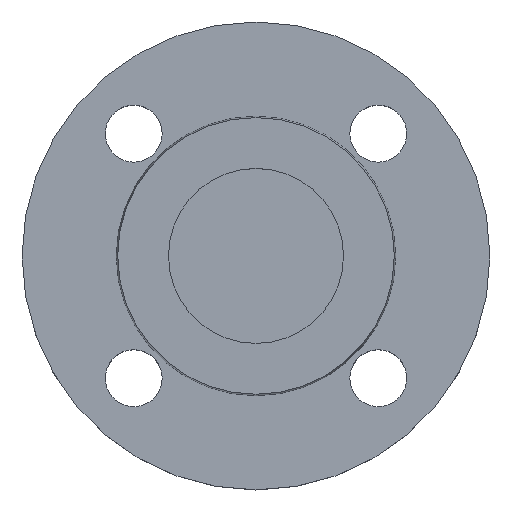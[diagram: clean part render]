
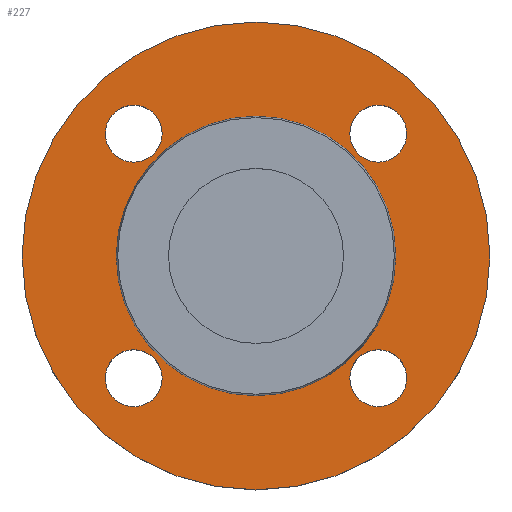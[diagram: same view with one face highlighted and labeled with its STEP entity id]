
A CAD part, top view. The second image highlights one B-rep face of the part: STEP entity #227.
In plain terms, the highlighted planar face has unit normal (0, 0, 1).
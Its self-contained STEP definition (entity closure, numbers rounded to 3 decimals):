
#5 = AXIS2_PLACEMENT_3D ( 'NONE', #592, #593, #594 ) ;
#8 = CIRCLE ( 'NONE', #111, 7. ) ;
#14 = CIRCLE ( 'NONE', #255, 7. ) ;
#16 = AXIS2_PLACEMENT_3D ( 'NONE', #435, #436, #437 ) ;
#21 = AXIS2_PLACEMENT_3D ( 'NONE', #371, #372, #373 ) ;
#23 = CIRCLE ( 'NONE', #253, 34.353 ) ;
#24 = EDGE_CURVE ( 'NONE', #236, #237, #251, .T. ) ;
#25 = CIRCLE ( 'NONE', #129, 7. ) ;
#32 = EDGE_CURVE ( 'NONE', #268, #130, #140, .T. ) ;
#35 = AXIS2_PLACEMENT_3D ( 'NONE', #569, #570, #571 ) ;
#38 = CIRCLE ( 'NONE', #271, 57.5 ) ;
#56 = EDGE_LOOP ( 'NONE', ( #90, #193 ) ) ;
#71 = EDGE_CURVE ( 'NONE', #326, #137, #38, .T. ) ;
#76 = AXIS2_PLACEMENT_3D ( 'NONE', #493, #494, #495 ) ;
#79 = EDGE_CURVE ( 'NONE', #237, #236, #14, .T. ) ;
#88 = ORIENTED_EDGE ( 'NONE', *, *, #116, .T. ) ;
#89 = ORIENTED_EDGE ( 'NONE', *, *, #215, .T. ) ;
#90 = ORIENTED_EDGE ( 'NONE', *, *, #312, .T. ) ;
#92 = ORIENTED_EDGE ( 'NONE', *, *, #32, .T. ) ;
#99 = ORIENTED_EDGE ( 'NONE', *, *, #200, .T. ) ;
#104 = EDGE_CURVE ( 'NONE', #136, #258, #523, .T. ) ;
#106 = ORIENTED_EDGE ( 'NONE', *, *, #256, .T. ) ;
#107 = ORIENTED_EDGE ( 'NONE', *, *, #104, .T. ) ;
#110 = CIRCLE ( 'NONE', #5, 57.5 ) ;
#111 = AXIS2_PLACEMENT_3D ( 'NONE', #534, #535, #536 ) ;
#116 = EDGE_CURVE ( 'NONE', #254, #164, #240, .T. ) ;
#120 = ORIENTED_EDGE ( 'NONE', *, *, #476, .F. ) ;
#125 = ORIENTED_EDGE ( 'NONE', *, *, #71, .F. ) ;
#129 = AXIS2_PLACEMENT_3D ( 'NONE', #481, #482, #483 ) ;
#130 = VERTEX_POINT ( 'NONE', #458 ) ;
#135 = VERTEX_POINT ( 'NONE', #460 ) ;
#136 = VERTEX_POINT ( 'NONE', #461 ) ;
#137 = VERTEX_POINT ( 'NONE', #462 ) ;
#140 = CIRCLE ( 'NONE', #350, 7. ) ;
#160 = AXIS2_PLACEMENT_3D ( 'NONE', #507, #508, #509 ) ;
#164 = VERTEX_POINT ( 'NONE', #477 ) ;
#175 = ORIENTED_EDGE ( 'NONE', *, *, #24, .T. ) ;
#180 = EDGE_LOOP ( 'NONE', ( #120, #125 ) ) ;
#193 = ORIENTED_EDGE ( 'NONE', *, *, #248, .T. ) ;
#200 = EDGE_CURVE ( 'NONE', #130, #268, #25, .T. ) ;
#201 = CIRCLE ( 'NONE', #35, 7. ) ;
#215 = EDGE_CURVE ( 'NONE', #164, #254, #264, .T. ) ;
#227 = ADVANCED_FACE ( 'NONE', ( #500, #501, #502, #503, #504, #505 ), #506, .T. ) ;
#229 = EDGE_LOOP ( 'NONE', ( #92, #99 ) ) ;
#231 = AXIS2_PLACEMENT_3D ( 'NONE', #442, #443, #444 ) ;
#236 = VERTEX_POINT ( 'NONE', #511 ) ;
#237 = VERTEX_POINT ( 'NONE', #512 ) ;
#240 = CIRCLE ( 'NONE', #231, 7. ) ;
#248 = EDGE_CURVE ( 'NONE', #249, #135, #8, .T. ) ;
#249 = VERTEX_POINT ( 'NONE', #537 ) ;
#251 = CIRCLE ( 'NONE', #21, 7. ) ;
#252 = EDGE_LOOP ( 'NONE', ( #88, #89 ) ) ;
#253 = AXIS2_PLACEMENT_3D ( 'NONE', #538, #549, #550 ) ;
#254 = VERTEX_POINT ( 'NONE', #548 ) ;
#255 = AXIS2_PLACEMENT_3D ( 'NONE', #427, #428, #429 ) ;
#256 = EDGE_CURVE ( 'NONE', #258, #136, #23, .T. ) ;
#258 = VERTEX_POINT ( 'NONE', #551 ) ;
#264 = CIRCLE ( 'NONE', #76, 7. ) ;
#267 = EDGE_LOOP ( 'NONE', ( #106, #107 ) ) ;
#268 = VERTEX_POINT ( 'NONE', #560 ) ;
#271 = AXIS2_PLACEMENT_3D ( 'NONE', #421, #422, #423 ) ;
#272 = EDGE_LOOP ( 'NONE', ( #296, #175 ) ) ;
#296 = ORIENTED_EDGE ( 'NONE', *, *, #79, .T. ) ;
#312 = EDGE_CURVE ( 'NONE', #135, #249, #201, .T. ) ;
#326 = VERTEX_POINT ( 'NONE', #588 ) ;
#350 = AXIS2_PLACEMENT_3D ( 'NONE', #383, #384, #385 ) ;
#371 = CARTESIAN_POINT ( 'NONE',  ( -30.052, 30.052, -2. ) ) ;
#372 = DIRECTION ( 'NONE',  ( 0., 0., -1. ) ) ;
#373 = DIRECTION ( 'NONE',  ( 1., 0., 0. ) ) ;
#383 = CARTESIAN_POINT ( 'NONE',  ( 30.052, 30.052, -2. ) ) ;
#384 = DIRECTION ( 'NONE',  ( 0., 0., -1. ) ) ;
#385 = DIRECTION ( 'NONE',  ( 1., 0., 0. ) ) ;
#421 = CARTESIAN_POINT ( 'NONE',  ( 0., 0., -2. ) ) ;
#422 = DIRECTION ( 'NONE',  ( 0., 0., -1. ) ) ;
#423 = DIRECTION ( 'NONE',  ( -1., 0., 0. ) ) ;
#427 = CARTESIAN_POINT ( 'NONE',  ( -30.052, 30.052, -2. ) ) ;
#428 = DIRECTION ( 'NONE',  ( 0., 0., -1. ) ) ;
#429 = DIRECTION ( 'NONE',  ( 1., 0., 0. ) ) ;
#435 = CARTESIAN_POINT ( 'NONE',  ( 0., 0., -2. ) ) ;
#436 = DIRECTION ( 'NONE',  ( 0., 0., -1. ) ) ;
#437 = DIRECTION ( 'NONE',  ( -1., 0., 0. ) ) ;
#442 = CARTESIAN_POINT ( 'NONE',  ( 30.052, -30.052, -2. ) ) ;
#443 = DIRECTION ( 'NONE',  ( 0., 0., -1. ) ) ;
#444 = DIRECTION ( 'NONE',  ( 1., 0., 0. ) ) ;
#458 = CARTESIAN_POINT ( 'NONE',  ( 23.052, 30.052, -2. ) ) ;
#460 = CARTESIAN_POINT ( 'NONE',  ( -23.052, -30.052, -2. ) ) ;
#461 = CARTESIAN_POINT ( 'NONE',  ( 34.353, 0., -2. ) ) ;
#462 = CARTESIAN_POINT ( 'NONE',  ( 57.5, 0., -2. ) ) ;
#476 = EDGE_CURVE ( 'NONE', #137, #326, #110, .T. ) ;
#477 = CARTESIAN_POINT ( 'NONE',  ( 23.052, -30.052, -2. ) ) ;
#481 = CARTESIAN_POINT ( 'NONE',  ( 30.052, 30.052, -2. ) ) ;
#482 = DIRECTION ( 'NONE',  ( 0., 0., -1. ) ) ;
#483 = DIRECTION ( 'NONE',  ( 1., 0., 0. ) ) ;
#493 = CARTESIAN_POINT ( 'NONE',  ( 30.052, -30.052, -2. ) ) ;
#494 = DIRECTION ( 'NONE',  ( 0., 0., -1. ) ) ;
#495 = DIRECTION ( 'NONE',  ( 1., 0., 0. ) ) ;
#500 = FACE_BOUND ( 'NONE', #252, .T. ) ;
#501 = FACE_BOUND ( 'NONE', #56, .T. ) ;
#502 = FACE_BOUND ( 'NONE', #272, .T. ) ;
#503 = FACE_BOUND ( 'NONE', #229, .T. ) ;
#504 = FACE_BOUND ( 'NONE', #267, .T. ) ;
#505 = FACE_OUTER_BOUND ( 'NONE', #180, .T. ) ;
#506 = PLANE ( 'NONE',  #160 ) ;
#507 = CARTESIAN_POINT ( 'NONE',  ( 34.353, 0., -2. ) ) ;
#508 = DIRECTION ( 'NONE',  ( 0., 0., 1. ) ) ;
#509 = DIRECTION ( 'NONE',  ( 1., 0., 0. ) ) ;
#511 = CARTESIAN_POINT ( 'NONE',  ( -37.052, 30.052, -2. ) ) ;
#512 = CARTESIAN_POINT ( 'NONE',  ( -23.052, 30.052, -2. ) ) ;
#523 = CIRCLE ( 'NONE', #16, 34.353 ) ;
#534 = CARTESIAN_POINT ( 'NONE',  ( -30.052, -30.052, -2. ) ) ;
#535 = DIRECTION ( 'NONE',  ( 0., 0., -1. ) ) ;
#536 = DIRECTION ( 'NONE',  ( 1., 0., 0. ) ) ;
#537 = CARTESIAN_POINT ( 'NONE',  ( -37.052, -30.052, -2. ) ) ;
#538 = CARTESIAN_POINT ( 'NONE',  ( 0., 0., -2. ) ) ;
#548 = CARTESIAN_POINT ( 'NONE',  ( 37.052, -30.052, -2. ) ) ;
#549 = DIRECTION ( 'NONE',  ( 0., 0., -1. ) ) ;
#550 = DIRECTION ( 'NONE',  ( -1., 0., 0. ) ) ;
#551 = CARTESIAN_POINT ( 'NONE',  ( -34.353, 0., -2. ) ) ;
#560 = CARTESIAN_POINT ( 'NONE',  ( 37.052, 30.052, -2. ) ) ;
#569 = CARTESIAN_POINT ( 'NONE',  ( -30.052, -30.052, -2. ) ) ;
#570 = DIRECTION ( 'NONE',  ( 0., 0., -1. ) ) ;
#571 = DIRECTION ( 'NONE',  ( 1., 0., 0. ) ) ;
#588 = CARTESIAN_POINT ( 'NONE',  ( -57.5, 0., -2. ) ) ;
#592 = CARTESIAN_POINT ( 'NONE',  ( 0., 0., -2. ) ) ;
#593 = DIRECTION ( 'NONE',  ( 0., 0., -1. ) ) ;
#594 = DIRECTION ( 'NONE',  ( -1., 0., 0. ) ) ;
